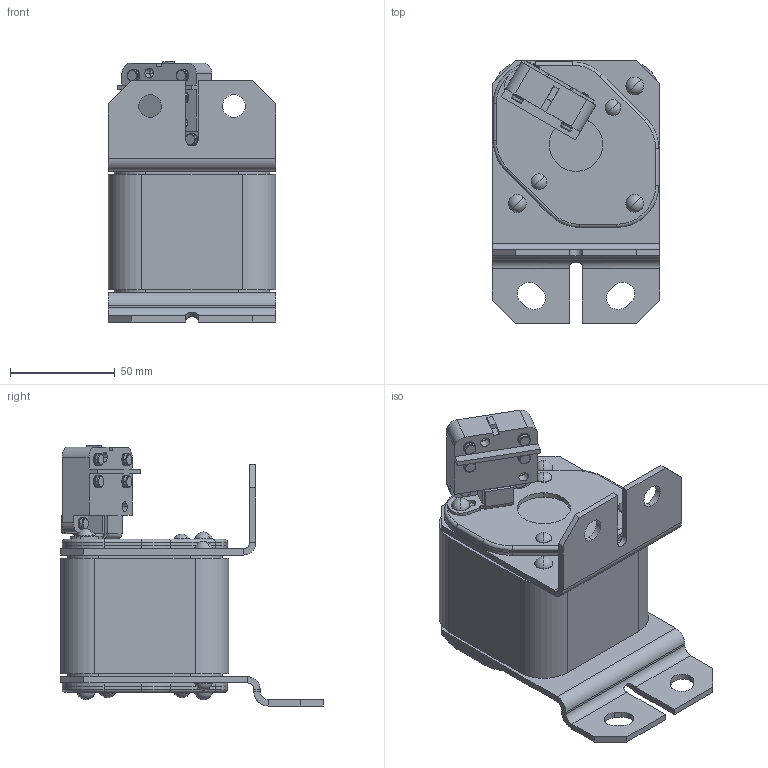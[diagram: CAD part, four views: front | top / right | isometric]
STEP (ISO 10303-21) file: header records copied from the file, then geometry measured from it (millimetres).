
FILE_DESCRIPTION (( 'STEP AP214' ), '1' );
FILE_NAME ('ﾏﾏ60ﾑ-41ﾊ3-XXXX-XXXX-ﾊﾝﾀﾇ.STEP', '2023-05-02T09:58:05', ( '' ), ( '' ), 'SwSTEP 2.0', 'SolidWorks 2018', '' );
FILE_SCHEMA (( 'AUTOMOTIVE_DESIGN' ));
Length unit declared in the file: millimetre
Products named in the file (1): ﾏﾏ60ﾑ-41ﾊ3-XXXX-XXXX-ﾊﾝﾀﾇ
Bounding box: 80 x 125 x 124 mm (x, y, z)
Volume: 468041.5 mm3; surface area: 157853.8 mm2
Topology: 39 solids, 39 shells, 789 faces, 1853 edges, 1182 vertices
Faces by surface type: cylinder 370, plane 292, torus 72, cone 30, sphere 24, bspline 1
Entity records: 32399 total; most frequent: DIRECTION 4367, CARTESIAN_POINT 4051, ORIENTED_EDGE 3706, EDGE_CURVE 1853, AXIS2_PLACEMENT_3D 1735, VERTEX_POINT 1182, EDGE_LOOP 983, CIRCLE 946
